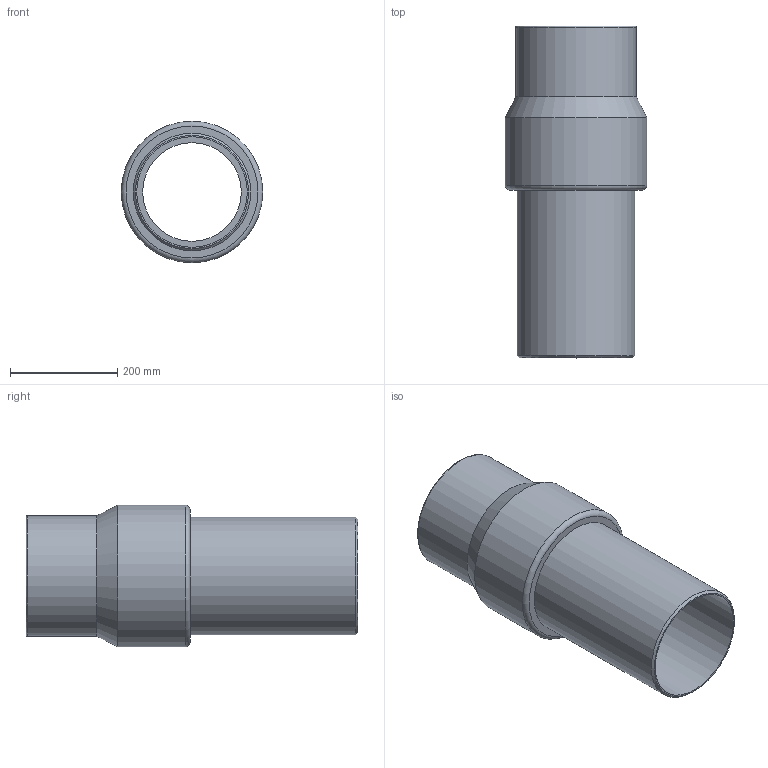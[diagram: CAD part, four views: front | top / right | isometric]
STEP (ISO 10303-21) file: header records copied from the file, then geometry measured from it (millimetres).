
FILE_DESCRIPTION(/* description */ ('Unknown'),/* implementation_level */ '2;1');
FILE_NAME(/* name */ 'RTSNP225C',/* time_stamp */ '2022-05-03T15:30:53+02:00',/* author */ ('Unknown'),/* organization */ ('Unknown'),/* preprocessor_version */ 'ST-DEVELOPER v18.1',/* originating_system */ 'Solid Edge',/* authorisation */ 'Unknown');
FILE_SCHEMA (('AUTOMOTIVE_DESIGN {1 0 10303 214 3 1 1}'));
Length unit declared in the file: millimetre
Products named in the file (3): RTSNP225C; Parte PE_; Partea ACCIAIO
Assembly tree (2 placements, depth 2):
  RTSNP225C
    Parte PE_
    Partea ACCIAIO
Bounding box: 264 x 619 x 264 mm (x, y, z)
Volume: 6635060.1 mm3; surface area: 1091087.4 mm2
Topology: 2 solids, 2 shells, 15 faces, 27 edges, 17 vertices
Faces by surface type: cylinder 6, plane 5, cone 2, torus 2
Full cylindrical faces by diameter (mm): 184 x1, 206.4 x1, 219.1 x2, 225 x1, 264 x1
Entity records: 388 total; most frequent: DIRECTION 66, CARTESIAN_POINT 48, AXIS2_PLACEMENT_3D 33, ORIENTED_EDGE 30, EDGE_LOOP 30, FACE_BOUND 30, EDGE_CURVE 15, VERTEX_POINT 15
